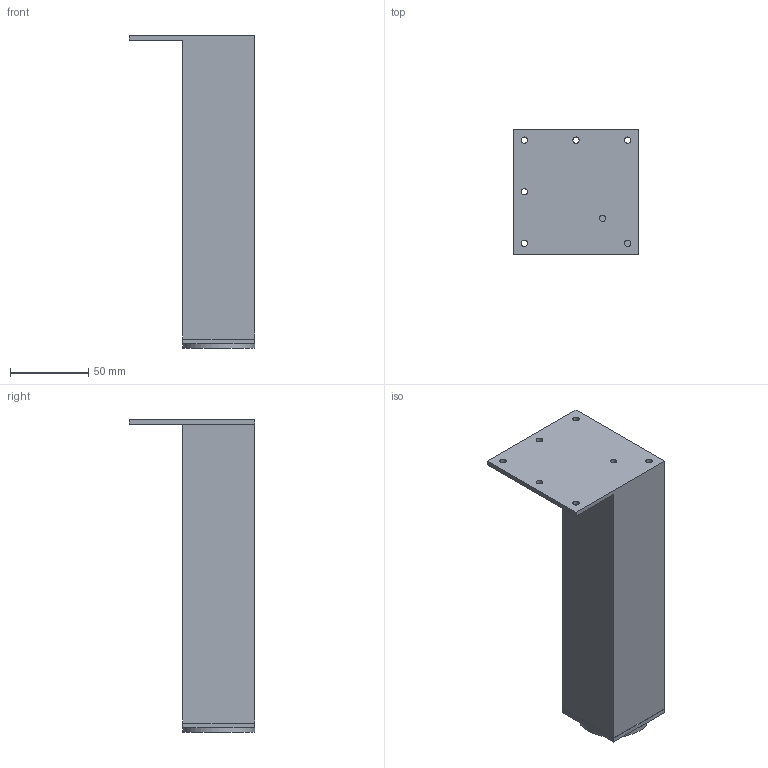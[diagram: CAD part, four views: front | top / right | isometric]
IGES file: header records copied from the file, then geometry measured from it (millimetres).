
Start section: Data from Parasolid IGES Translator 15.0.47, Copyright(c) 2006 Siemens P LM Software. All Rights Reserved.
Global section: file name: 46494.igs; native system:  By UGS Corp.; preprocessor: XPlus GENERIC/IGES 3.0; author: Noname; organization: Noname; date: 20140121.135640; units: millimetre
Bounding box: 80 x 80 x 200 mm (x, y, z)
Surface area: 87788.8 mm2 (no closed solid volume)
Topology: 0 solids, 0 shells, 37 faces, 176 edges, 161 vertices
Faces by surface type: extrusion 29, revolution 8
